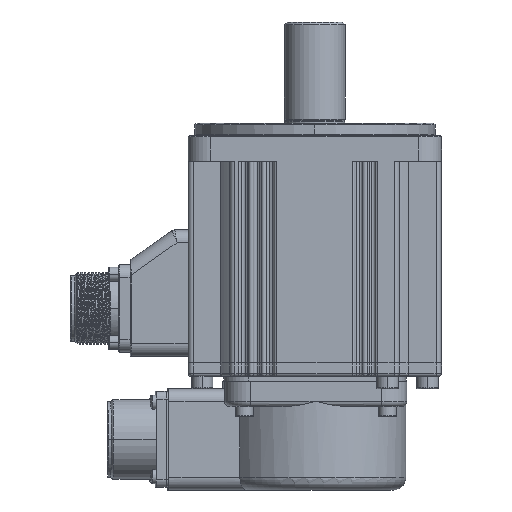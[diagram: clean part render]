
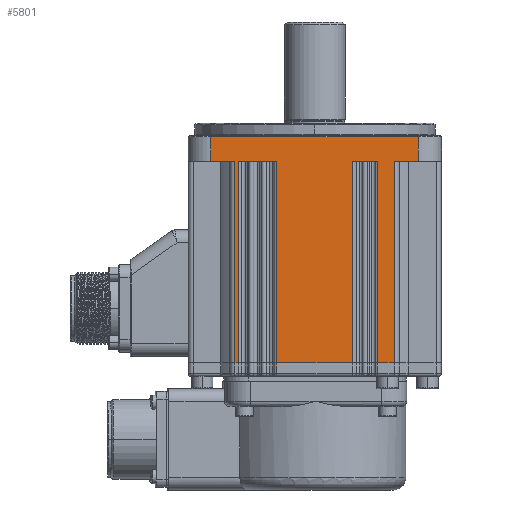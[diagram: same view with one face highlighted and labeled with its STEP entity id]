
A CAD part, left-side view. The second image highlights one B-rep face of the part: STEP entity #5801.
In plain terms, the highlighted planar face has unit normal (-1, 0.003, 0).
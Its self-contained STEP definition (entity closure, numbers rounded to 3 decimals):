
#270=DIRECTION('',(0.,0.,-1.));
#271=VECTOR('',#270,82.);
#272=CARTESIAN_POINT('',(-50.,-0.4,
41.));
#273=LINE('',#272,#271);
#411=DIRECTION('',(0.,-1.,0.));
#412=VECTOR('',#411,9.6);
#413=CARTESIAN_POINT('',(-50.,-0.4,
-41.));
#414=LINE('',#413,#412);
#415=DIRECTION('',(0.,-1.,0.));
#416=VECTOR('',#415,9.6);
#417=CARTESIAN_POINT('',(-50.,-0.4,
41.));
#418=LINE('',#417,#416);
#419=DIRECTION('',(0.,0.,-1.));
#420=VECTOR('',#419,9.5);
#421=CARTESIAN_POINT('',(-50.,-10.,41.));
#422=LINE('',#421,#420);
#423=DIRECTION('',(0.,0.,-1.));
#424=VECTOR('',#423,5.);
#425=CARTESIAN_POINT('',(-50.,-10.,25.004));
#426=LINE('',#425,#424);
#427=DIRECTION('',(0.,0.,-1.));
#428=VECTOR('',#427,5.);
#429=CARTESIAN_POINT('',(-50.,-10.,20.004));
#430=LINE('',#429,#428);
#431=DIRECTION('',(0.,0.,-1.));
#432=VECTOR('',#431,5.);
#433=CARTESIAN_POINT('',(-50.,-10.,-15.));
#434=LINE('',#433,#432);
#435=DIRECTION('',(0.,0.,-1.));
#436=VECTOR('',#435,5.);
#437=CARTESIAN_POINT('',(-50.,-10.,-20.));
#438=LINE('',#437,#436);
#439=DIRECTION('',(0.,0.,-1.));
#440=VECTOR('',#439,5.);
#441=CARTESIAN_POINT('',(-50.,-10.,-25.));
#442=LINE('',#441,#440);
#443=DIRECTION('',(0.,0.,-1.));
#444=VECTOR('',#443,9.5);
#445=CARTESIAN_POINT('',(-50.,-10.,-31.5));
#446=LINE('',#445,#444);
#653=DIRECTION('',(0.,0.,1.));
#654=VECTOR('',#653,1.5);
#655=CARTESIAN_POINT('',(-50.,-89.7,-31.5));
#656=LINE('',#655,#654);
#734=DIRECTION('',(0.,0.,1.));
#735=VECTOR('',#734,30.004);
#736=CARTESIAN_POINT('',(-50.,-89.7,-15.));
#737=LINE('',#736,#735);
#783=DIRECTION('',(0.,0.,1.));
#784=VECTOR('',#783,6.496);
#785=CARTESIAN_POINT('',(-50.,-89.7,25.004));
#786=LINE('',#785,#784);
#1450=DIRECTION('',(0.,-1.,0.));
#1451=VECTOR('',#1450,79.7);
#1452=CARTESIAN_POINT('',(-50.,-10.,-31.5));
#1453=LINE('',#1452,#1451);
#1478=DIRECTION('',(0.,1.,0.));
#1479=VECTOR('',#1478,79.7);
#1480=CARTESIAN_POINT('',(-50.,-89.7,-30.));
#1481=LINE('',#1480,#1479);
#1613=DIRECTION('',(0.,-1.,0.));
#1614=VECTOR('',#1613,79.7);
#1615=CARTESIAN_POINT('',(-50.,-10.,-15.));
#1616=LINE('',#1615,#1614);
#1669=DIRECTION('',(0.,1.,0.));
#1670=VECTOR('',#1669,79.7);
#1671=CARTESIAN_POINT('',(-50.,-89.7,15.004));
#1672=LINE('',#1671,#1670);
#1799=DIRECTION('',(0.,-1.,0.));
#1800=VECTOR('',#1799,79.7);
#1801=CARTESIAN_POINT('',(-50.,-10.,25.004));
#1802=LINE('',#1801,#1800);
#1807=DIRECTION('',(0.,1.,0.));
#1808=VECTOR('',#1807,79.7);
#1809=CARTESIAN_POINT('',(-50.,-89.7,31.5));
#1810=LINE('',#1809,#1808);
#4437=CARTESIAN_POINT('',(-50.,-89.7,-31.5));
#4438=VERTEX_POINT('',#4437);
#4439=CARTESIAN_POINT('',(-50.,-89.7,-30.));
#4440=VERTEX_POINT('',#4439);
#4477=CARTESIAN_POINT('',(-50.,-89.7,-15.));
#4478=VERTEX_POINT('',#4477);
#4479=CARTESIAN_POINT('',(-50.,-89.7,15.004));
#4480=VERTEX_POINT('',#4479);
#4505=CARTESIAN_POINT('',(-50.,-89.7,25.004));
#4506=VERTEX_POINT('',#4505);
#4507=CARTESIAN_POINT('',(-50.,-89.7,31.5));
#4508=VERTEX_POINT('',#4507);
#4871=CARTESIAN_POINT('',(-50.,-10.,-20.));
#4872=CARTESIAN_POINT('',(-50.,-10.,-25.));
#4873=VERTEX_POINT('',#4871);
#4874=VERTEX_POINT('',#4872);
#4905=CARTESIAN_POINT('',(-50.,-10.,20.004));
#4906=VERTEX_POINT('',#4905);
#4907=CARTESIAN_POINT('',(-50.,-10.,25.004));
#4908=VERTEX_POINT('',#4907);
#4949=CARTESIAN_POINT('',(-50.,-10.,-30.));
#4950=VERTEX_POINT('',#4949);
#4963=CARTESIAN_POINT('',(-50.,-10.,-15.));
#4964=VERTEX_POINT('',#4963);
#4973=CARTESIAN_POINT('',(-50.,-10.,15.004));
#4974=VERTEX_POINT('',#4973);
#5067=CARTESIAN_POINT('',(-50.,-10.,31.5));
#5068=VERTEX_POINT('',#5067);
#5069=CARTESIAN_POINT('',(-50.,-10.,41.));
#5070=VERTEX_POINT('',#5069);
#5075=CARTESIAN_POINT('',(-50.,-10.,-31.5));
#5076=CARTESIAN_POINT('',(-50.,-10.,-41.));
#5077=VERTEX_POINT('',#5075);
#5078=VERTEX_POINT('',#5076);
#5107=CARTESIAN_POINT('',(-50.,-0.4,
-41.));
#5108=VERTEX_POINT('',#5107);
#5109=CARTESIAN_POINT('',(-50.,-0.4,
41.));
#5110=VERTEX_POINT('',#5109);
#5758=CARTESIAN_POINT('',(-50.,0.,50.));
#5759=DIRECTION('',(-1.,0.,0.));
#5760=DIRECTION('',(0.,0.,-1.));
#5761=AXIS2_PLACEMENT_3D('',#5758,#5759,#5760);
#5762=PLANE('',#5761);
#5763=ORIENTED_EDGE('',*,*,#5580,.F.);
#5765=ORIENTED_EDGE('',*,*,#5764,.T.);
#5767=ORIENTED_EDGE('',*,*,#5766,.T.);
#5769=ORIENTED_EDGE('',*,*,#5768,.F.);
#5771=ORIENTED_EDGE('',*,*,#5770,.F.);
#5773=ORIENTED_EDGE('',*,*,#5772,.F.);
#5775=ORIENTED_EDGE('',*,*,#5774,.T.);
#5777=ORIENTED_EDGE('',*,*,#5776,.T.);
#5779=ORIENTED_EDGE('',*,*,#5778,.F.);
#5781=ORIENTED_EDGE('',*,*,#5780,.F.);
#5783=ORIENTED_EDGE('',*,*,#5782,.F.);
#5785=ORIENTED_EDGE('',*,*,#5784,.T.);
#5787=ORIENTED_EDGE('',*,*,#5786,.T.);
#5789=ORIENTED_EDGE('',*,*,#5788,.T.);
#5791=ORIENTED_EDGE('',*,*,#5790,.F.);
#5793=ORIENTED_EDGE('',*,*,#5792,.F.);
#5795=ORIENTED_EDGE('',*,*,#5794,.F.);
#5797=ORIENTED_EDGE('',*,*,#5796,.T.);
#5798=ORIENTED_EDGE('',*,*,#5750,.F.);
#5799=EDGE_LOOP('',(#5763,#5765,#5767,#5769,#5771,#5773,#5775,#5777,#5779,#5781,
#5783,#5785,#5787,#5789,#5791,#5793,#5795,#5797,#5798));
#5800=FACE_OUTER_BOUND('',#5799,.F.);
#5801=ADVANCED_FACE('',(#5800),#5762,.T.);
#5580=EDGE_CURVE('',#5110,#5108,#273,.T.);
#5750=EDGE_CURVE('',#5108,#5078,#414,.T.);
#5764=EDGE_CURVE('',#5110,#5070,#418,.T.);
#5766=EDGE_CURVE('',#5070,#5068,#422,.T.);
#5768=EDGE_CURVE('',#4508,#5068,#1810,.T.);
#5770=EDGE_CURVE('',#4506,#4508,#786,.T.);
#5772=EDGE_CURVE('',#4908,#4506,#1802,.T.);
#5774=EDGE_CURVE('',#4908,#4906,#426,.T.);
#5776=EDGE_CURVE('',#4906,#4974,#430,.T.);
#5778=EDGE_CURVE('',#4480,#4974,#1672,.T.);
#5780=EDGE_CURVE('',#4478,#4480,#737,.T.);
#5782=EDGE_CURVE('',#4964,#4478,#1616,.T.);
#5784=EDGE_CURVE('',#4964,#4873,#434,.T.);
#5786=EDGE_CURVE('',#4873,#4874,#438,.T.);
#5788=EDGE_CURVE('',#4874,#4950,#442,.T.);
#5790=EDGE_CURVE('',#4440,#4950,#1481,.T.);
#5792=EDGE_CURVE('',#4438,#4440,#656,.T.);
#5794=EDGE_CURVE('',#5077,#4438,#1453,.T.);
#5796=EDGE_CURVE('',#5077,#5078,#446,.T.);
